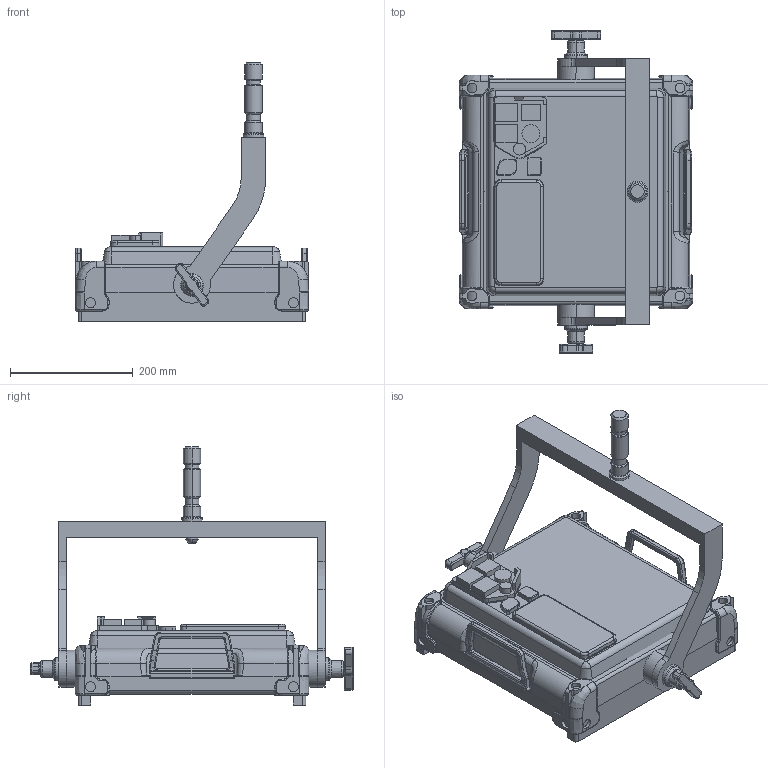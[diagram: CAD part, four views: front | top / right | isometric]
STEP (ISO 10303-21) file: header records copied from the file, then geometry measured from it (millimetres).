
FILE_DESCRIPTION((''),'2;1');
FILE_NAME('PRT0003','2022-02-09T12:06:28',('Evan'),(''),'CREO PARAMETRIC BY PTC INC, 2019010','CREO PARAMETRIC BY PTC INC, 2019010','');
FILE_SCHEMA(('CONFIG_CONTROL_DESIGN'));
Length unit declared in the file: millimetre
Products named in the file (1): PRT0003
Bounding box: 380.04 x 525 x 420.25 mm (x, y, z)
Volume: 14161853.7 mm3; surface area: 727566.9 mm2
Topology: 1 solids, 1 shells, 973 faces, 2416 edges, 1464 vertices
Faces by surface type: cylinder 374, plane 260, torus 181, bspline 112, cone 36, extrusion 8, sphere 2
Entity records: 33373 total; most frequent: CARTESIAN_POINT 10635, ORIENTED_EDGE 4832, DIRECTION 4777, EDGE_CURVE 2416, AXIS2_PLACEMENT_3D 1868, VERTEX_POINT 1464, VECTOR 1041, LINE 1033
